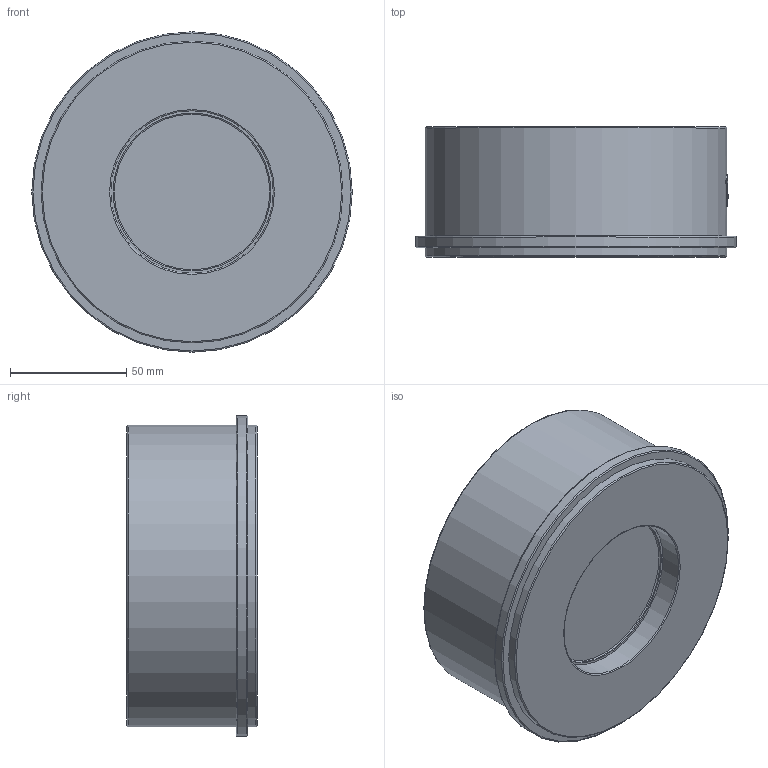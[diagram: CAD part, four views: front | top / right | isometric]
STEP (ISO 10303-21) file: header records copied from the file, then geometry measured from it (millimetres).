
FILE_DESCRIPTION(('STEP AP242'), '1');
FILE_NAME('VCS3232-Fb Êëàïàí îáðàòíûé ïðóæèííûé DN.ru Äó80 Ðó40', '', ('UNSPECIFIED'), ('UNSPECIFIED'), 'C3D Converter', 'C3D Toolkit', '');
FILE_SCHEMA(('AP242_MANAGED_MODEL_BASED_3D_ENGINEERING_MIM_LF { 1 0 10303 442 1 1 4 }'));
Length unit declared in the file: millimetre
Products named in the file (1): VCS3232-Fb
Bounding box: 138 x 56 x 138 mm (x, y, z)
Volume: 348314.3 mm3; surface area: 100229 mm2
Topology: 1 solids, 1 shells, 136 faces, 363 edges, 245 vertices
Faces by surface type: plane 52, extrusion 40, cylinder 29, torus 10, bspline 3, cone 2
Full cylindrical faces by diameter (mm): 17 x2, 33 x2, 68 x1, 70 x1, 78 x1, 79 x1, 90 x1, 114 x1, 130 x2, 138 x1
Entity records: 10287 total; most frequent: CARTESIAN_POINT 7038, ORIENTED_EDGE 672, DIRECTION 542, EDGE_CURVE 336, VERTEX_POINT 245, AXIS2_PLACEMENT_3D 198, EDGE_LOOP 187, FACE_BOUND 170
